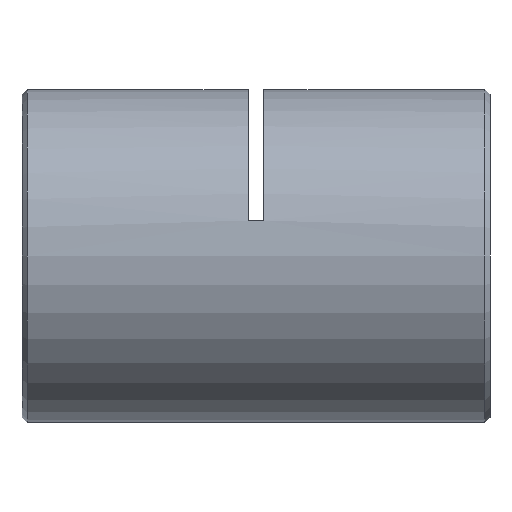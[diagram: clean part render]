
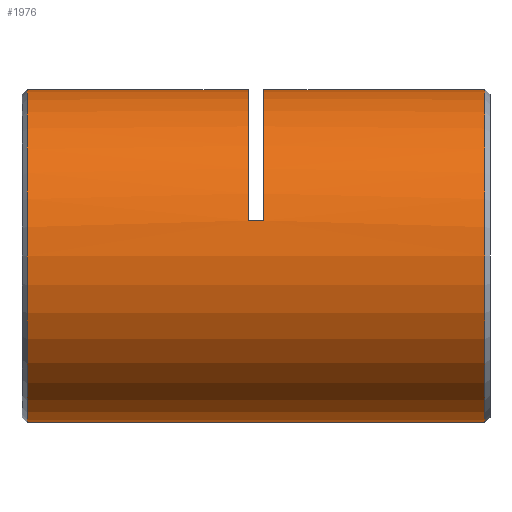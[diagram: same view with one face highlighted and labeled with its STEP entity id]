
A CAD part, left-side view. The second image highlights one B-rep face of the part: STEP entity #1976.
In plain terms, the highlighted cylindrical face has radius 16 mm (diameter 32 mm), a partial arc.
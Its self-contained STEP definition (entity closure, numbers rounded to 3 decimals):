
#93 = AXIS2_PLACEMENT_3D ( 'NONE', #882, #1712, #4705 ) ;
#107 = DIRECTION ( 'NONE',  ( 0., 1., 0. ) ) ;
#111 = LINE ( 'NONE', #2068, #5968 ) ;
#149 = CIRCLE ( 'NONE', #876, 16. ) ;
#226 = CARTESIAN_POINT ( 'NONE',  ( 0., 44.75, -16. ) ) ;
#390 = VERTEX_POINT ( 'NONE', #3929 ) ;
#419 = CARTESIAN_POINT ( 'NONE',  ( 0., 44.75, 16. ) ) ;
#484 = CYLINDRICAL_SURFACE ( 'NONE', #5739, 16. ) ;
#509 = CARTESIAN_POINT ( 'NONE',  ( 0., 22., 16. ) ) ;
#518 = EDGE_CURVE ( 'NONE', #2920, #390, #149, .T. ) ;
#522 = VERTEX_POINT ( 'NONE', #226 ) ;
#545 = AXIS2_PLACEMENT_3D ( 'NONE', #1579, #2639, #4017 ) ;
#590 = CARTESIAN_POINT ( 'NONE',  ( 0., 0.75, 0. ) ) ;
#683 = CARTESIAN_POINT ( 'NONE',  ( 0., 0., -16. ) ) ;
#790 = VERTEX_POINT ( 'NONE', #509 ) ;
#876 = AXIS2_PLACEMENT_3D ( 'NONE', #5573, #5997, #4580 ) ;
#882 = CARTESIAN_POINT ( 'NONE',  ( 0., 44.75, 0. ) ) ;
#1050 = EDGE_CURVE ( 'NONE', #3252, #790, #1415, .T. ) ;
#1259 = ORIENTED_EDGE ( 'NONE', *, *, #1050, .T. ) ;
#1415 = LINE ( 'NONE', #5301, #5375 ) ;
#1488 = AXIS2_PLACEMENT_3D ( 'NONE', #590, #107, #5612 ) ;
#1494 = DIRECTION ( 'NONE',  ( 0., 1., 0. ) ) ;
#1579 = CARTESIAN_POINT ( 'NONE',  ( 0., 22., 0. ) ) ;
#1712 = DIRECTION ( 'NONE',  ( 0., -1., 0. ) ) ;
#1883 = ORIENTED_EDGE ( 'NONE', *, *, #518, .T. ) ;
#1935 = DIRECTION ( 'NONE',  ( 0., 0., 1. ) ) ;
#1976 = ADVANCED_FACE ( 'NONE', ( #4894 ), #484, .T. ) ;
#2068 = CARTESIAN_POINT ( 'NONE',  ( 0., 0., 16. ) ) ;
#2104 = CARTESIAN_POINT ( 'NONE',  ( -15.632, 23.5, 3.413 ) ) ;
#2268 = ORIENTED_EDGE ( 'NONE', *, *, #4811, .T. ) ;
#2282 = VERTEX_POINT ( 'NONE', #3950 ) ;
#2639 = DIRECTION ( 'NONE',  ( 0., 1., 0. ) ) ;
#2706 = ORIENTED_EDGE ( 'NONE', *, *, #6069, .F. ) ;
#2920 = VERTEX_POINT ( 'NONE', #2104 ) ;
#3183 = DIRECTION ( 'NONE',  ( 0., 1., 0. ) ) ;
#3252 = VERTEX_POINT ( 'NONE', #5121 ) ;
#3321 = EDGE_CURVE ( 'NONE', #4150, #3252, #3635, .T. ) ;
#3331 = CARTESIAN_POINT ( 'NONE',  ( 0., 0.75, -16. ) ) ;
#3373 = EDGE_CURVE ( 'NONE', #4150, #522, #3581, .T. ) ;
#3510 = EDGE_CURVE ( 'NONE', #3565, #522, #4514, .T. ) ;
#3565 = VERTEX_POINT ( 'NONE', #419 ) ;
#3581 = LINE ( 'NONE', #683, #5280 ) ;
#3635 = CIRCLE ( 'NONE', #1488, 16. ) ;
#3823 = EDGE_LOOP ( 'NONE', ( #4407, #6237, #1259, #2706, #2268, #1883, #4882, #6371 ) ) ;
#3929 = CARTESIAN_POINT ( 'NONE',  ( 0., 23.5, 16. ) ) ;
#3950 = CARTESIAN_POINT ( 'NONE',  ( -15.632, 22., 3.413 ) ) ;
#4017 = DIRECTION ( 'NONE',  ( 0., 0., 1. ) ) ;
#4065 = DIRECTION ( 'NONE',  ( 0., 1., 0. ) ) ;
#4150 = VERTEX_POINT ( 'NONE', #3331 ) ;
#4334 = EDGE_CURVE ( 'NONE', #390, #3565, #111, .T. ) ;
#4407 = ORIENTED_EDGE ( 'NONE', *, *, #3373, .F. ) ;
#4421 = VECTOR ( 'NONE', #3183, 1000. ) ;
#4514 = CIRCLE ( 'NONE', #93, 16. ) ;
#4580 = DIRECTION ( 'NONE',  ( 0., 0., 1. ) ) ;
#4705 = DIRECTION ( 'NONE',  ( 0., 0., -1. ) ) ;
#4811 = EDGE_CURVE ( 'NONE', #2282, #2920, #5634, .T. ) ;
#4882 = ORIENTED_EDGE ( 'NONE', *, *, #4334, .T. ) ;
#4894 = FACE_OUTER_BOUND ( 'NONE', #3823, .T. ) ;
#4957 = CARTESIAN_POINT ( 'NONE',  ( 0., 0., 0. ) ) ;
#5121 = CARTESIAN_POINT ( 'NONE',  ( 0., 0.75, 16. ) ) ;
#5276 = CARTESIAN_POINT ( 'NONE',  ( -15.632, 22.75, 3.413 ) ) ;
#5280 = VECTOR ( 'NONE', #5542, 1000. ) ;
#5301 = CARTESIAN_POINT ( 'NONE',  ( 0., 0., 16. ) ) ;
#5375 = VECTOR ( 'NONE', #5758, 1000. ) ;
#5542 = DIRECTION ( 'NONE',  ( 0., 1., 0. ) ) ;
#5573 = CARTESIAN_POINT ( 'NONE',  ( 0., 23.5, 0. ) ) ;
#5612 = DIRECTION ( 'NONE',  ( 0., 0., 1. ) ) ;
#5634 = LINE ( 'NONE', #5276, #4421 ) ;
#5739 = AXIS2_PLACEMENT_3D ( 'NONE', #4957, #1494, #1935 ) ;
#5758 = DIRECTION ( 'NONE',  ( 0., 1., 0. ) ) ;
#5968 = VECTOR ( 'NONE', #4065, 1000. ) ;
#5997 = DIRECTION ( 'NONE',  ( 0., 1., 0. ) ) ;
#6069 = EDGE_CURVE ( 'NONE', #2282, #790, #6093, .T. ) ;
#6093 = CIRCLE ( 'NONE', #545, 16. ) ;
#6237 = ORIENTED_EDGE ( 'NONE', *, *, #3321, .T. ) ;
#6371 = ORIENTED_EDGE ( 'NONE', *, *, #3510, .T. ) ;
